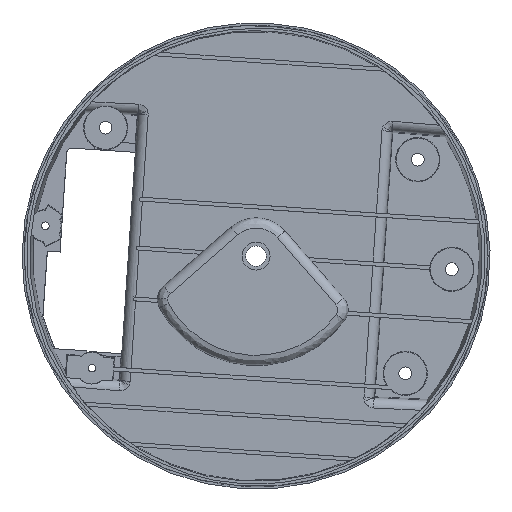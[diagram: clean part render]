
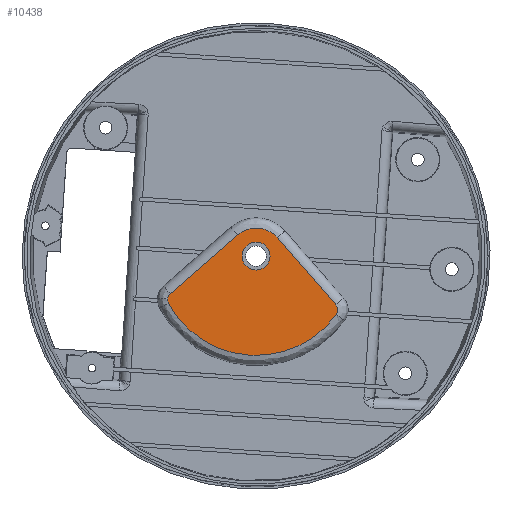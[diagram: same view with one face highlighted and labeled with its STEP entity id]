
A CAD part, front view. The second image highlights one B-rep face of the part: STEP entity #10438.
In plain terms, the highlighted planar face has unit normal (0, -1, 0).
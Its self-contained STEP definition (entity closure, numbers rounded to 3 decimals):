
#132 = ORIENTED_EDGE ( 'NONE', *, *, #8735, .T. ) ;
#175 = CARTESIAN_POINT ( 'NONE',  ( -19.419, -68.605, 186.419 ) ) ;
#1400 = EDGE_CURVE ( 'NONE', #9610, #8739, #2646, .T. ) ;
#1577 = CARTESIAN_POINT ( 'NONE',  ( -46.868, -68.605, 161.264 ) ) ;
#2056 = CIRCLE ( 'NONE', #13988, 5.5 ) ;
#2159 = CARTESIAN_POINT ( 'NONE',  ( -31.348, -68.605, 131.483 ) ) ;
#2646 =( BOUNDED_CURVE ( )  B_SPLINE_CURVE ( 3, ( #13404, #15284, #17464, #17228 ),
 .UNSPECIFIED., .F., .F. ) 
 B_SPLINE_CURVE_WITH_KNOTS ( ( 4, 4 ),
 ( 0., 0.417 ),
 .UNSPECIFIED. ) 
 CURVE ( )  GEOMETRIC_REPRESENTATION_ITEM ( )  RATIONAL_B_SPLINE_CURVE ( ( 1., 0.974, 0.974, 1. ) ) 
 REPRESENTATION_ITEM ( '' )  );
#2765 =( BOUNDED_CURVE ( )  B_SPLINE_CURVE ( 3, ( #17013, #13202, #2159, #4198 ),
 .UNSPECIFIED., .F., .F. ) 
 B_SPLINE_CURVE_WITH_KNOTS ( ( 4, 4 ),
 ( 0., 1. ),
 .UNSPECIFIED. ) 
 CURVE ( )  GEOMETRIC_REPRESENTATION_ITEM ( )  RATIONAL_B_SPLINE_CURVE ( ( 1., 0.688, 0.688, 1. ) ) 
 REPRESENTATION_ITEM ( '' )  );
#2863 = VERTEX_POINT ( 'NONE', #7914 ) ;
#3280 = VECTOR ( 'NONE', #8968, 1000. ) ;
#3350 = EDGE_CURVE ( 'NONE', #17138, #2863, #19971, .T. ) ;
#3464 = CARTESIAN_POINT ( 'NONE',  ( 20.159, -68.605, 157.846 ) ) ;
#3465 = CARTESIAN_POINT ( 'NONE',  ( 19.367, -68.605, 155.207 ) ) ;
#3534 = CARTESIAN_POINT ( 'NONE',  ( -12.181, -68.605, 178.136 ) ) ;
#3555 = FACE_OUTER_BOUND ( 'NONE', #23738, .T. ) ;
#3672 = CARTESIAN_POINT ( 'NONE',  ( -46.868, -68.605, 161.264 ) ) ;
#3875 = CARTESIAN_POINT ( 'NONE',  ( -19.419, -68.605, 186.419 ) ) ;
#4198 = CARTESIAN_POINT ( 'NONE',  ( -46.516, -68.605, 159.64 ) ) ;
#4530 = CARTESIAN_POINT ( 'NONE',  ( 16.94, -68.605, 156.971 ) ) ;
#4633 =( BOUNDED_CURVE ( )  B_SPLINE_CURVE ( 3, ( #13122, #3464, #11105, #24662 ),
 .UNSPECIFIED., .F., .F. ) 
 B_SPLINE_CURVE_WITH_KNOTS ( ( 4, 4 ),
 ( 0., 1. ),
 .UNSPECIFIED. ) 
 CURVE ( )  GEOMETRIC_REPRESENTATION_ITEM ( )  RATIONAL_B_SPLINE_CURVE ( ( 1., 0.854, 0.854, 1. ) ) 
 REPRESENTATION_ITEM ( '' )  );
#5270 = ORIENTED_EDGE ( 'NONE', *, *, #21518, .F. ) ;
#5454 = CARTESIAN_POINT ( 'NONE',  ( -45.849, -68.605, 163.322 ) ) ;
#5700 = CARTESIAN_POINT ( 'NONE',  ( -46.814, -68.605, 162.069 ) ) ;
#5986 = FACE_BOUND ( 'NONE', #12447, .T. ) ;
#6422 = PLANE ( 'NONE',  #19364 ) ;
#7091 = LINE ( 'NONE', #7966, #13420 ) ;
#7877 = ORIENTED_EDGE ( 'NONE', *, *, #21715, .T. ) ;
#7914 = CARTESIAN_POINT ( 'NONE',  ( 19.199, -68.605, 158.945 ) ) ;
#7937 = CARTESIAN_POINT ( 'NONE',  ( -46.516, -68.605, 159.64 ) ) ;
#7966 = CARTESIAN_POINT ( 'NONE',  ( -19.419, -68.605, 186.419 ) ) ;
#8735 = EDGE_CURVE ( 'NONE', #19538, #9919, #2056, .T. ) ;
#8739 = VERTEX_POINT ( 'NONE', #1577 ) ;
#8914 = CARTESIAN_POINT ( 'NONE',  ( -6.681, -68.605, 178.136 ) ) ;
#8968 = DIRECTION ( 'NONE',  ( 0.658, 0., -0.753 ) ) ;
#9610 = VERTEX_POINT ( 'NONE', #7937 ) ;
#9919 = VERTEX_POINT ( 'NONE', #24425 ) ;
#10401 = ORIENTED_EDGE ( 'NONE', *, *, #15903, .F. ) ;
#10438 = ADVANCED_FACE ( 'NONE', ( #5986, #3555 ), #6422, .T. ) ;
#10648 = ORIENTED_EDGE ( 'NONE', *, *, #20570, .F. ) ;
#10895 = VERTEX_POINT ( 'NONE', #175 ) ;
#11105 = CARTESIAN_POINT ( 'NONE',  ( 20.225, -68.605, 156.388 ) ) ;
#11550 = AXIS2_PLACEMENT_3D ( 'NONE', #18813, #20528, #16613 ) ;
#12280 = ORIENTED_EDGE ( 'NONE', *, *, #3350, .F. ) ;
#12447 = EDGE_LOOP ( 'NONE', ( #132, #7877 ) ) ;
#13122 = CARTESIAN_POINT ( 'NONE',  ( 19.199, -68.605, 158.945 ) ) ;
#13202 = CARTESIAN_POINT ( 'NONE',  ( 0.563, -68.605, 129.335 ) ) ;
#13369 = ORIENTED_EDGE ( 'NONE', *, *, #21495, .F. ) ;
#13404 = CARTESIAN_POINT ( 'NONE',  ( -46.516, -68.605, 159.64 ) ) ;
#13420 = VECTOR ( 'NONE', #13863, 1000. ) ;
#13863 = DIRECTION ( 'NONE',  ( 0.753, 0., 0.658 ) ) ;
#13988 = AXIS2_PLACEMENT_3D ( 'NONE', #3534, #15473, #24891 ) ;
#14218 = EDGE_CURVE ( 'NONE', #2863, #22625, #4633, .T. ) ;
#14443 = DIRECTION ( 'NONE',  ( 1., 0., 0. ) ) ;
#14558 = CARTESIAN_POINT ( 'NONE',  ( -45.849, -68.605, 163.322 ) ) ;
#15284 = CARTESIAN_POINT ( 'NONE',  ( -46.786, -68.605, 160.141 ) ) ;
#15473 = DIRECTION ( 'NONE',  ( 0., 1., 0. ) ) ;
#15903 = EDGE_CURVE ( 'NONE', #10895, #17138, #24861, .T. ) ;
#16613 = DIRECTION ( 'NONE',  ( 1., 0., 0. ) ) ;
#17013 = CARTESIAN_POINT ( 'NONE',  ( 19.367, -68.605, 155.207 ) ) ;
#17138 = VERTEX_POINT ( 'NONE', #21502 ) ;
#17228 = CARTESIAN_POINT ( 'NONE',  ( -46.868, -68.605, 161.264 ) ) ;
#17464 = CARTESIAN_POINT ( 'NONE',  ( -46.906, -68.605, 160.697 ) ) ;
#17510 =( BOUNDED_CURVE ( )  B_SPLINE_CURVE ( 3, ( #3672, #5700, #23080, #5454 ),
 .UNSPECIFIED., .F., .F. ) 
 B_SPLINE_CURVE_WITH_KNOTS ( ( 4, 4 ),
 ( 0.417, 1. ),
 .UNSPECIFIED. ) 
 CURVE ( )  GEOMETRIC_REPRESENTATION_ITEM ( )  RATIONAL_B_SPLINE_CURVE ( ( 1., 0.949, 0.949, 1. ) ) 
 REPRESENTATION_ITEM ( '' )  );
#17829 = CARTESIAN_POINT ( 'NONE',  ( -8.138, -68.605, 190.226 ) ) ;
#18813 = CARTESIAN_POINT ( 'NONE',  ( -12.181, -68.605, 178.136 ) ) ;
#19364 = AXIS2_PLACEMENT_3D ( 'NONE', #4530, #22416, #14443 ) ;
#19538 = VERTEX_POINT ( 'NONE', #8914 ) ;
#19971 = LINE ( 'NONE', #24532, #3280 ) ;
#20528 = DIRECTION ( 'NONE',  ( 0., 1., 0. ) ) ;
#20545 = ORIENTED_EDGE ( 'NONE', *, *, #1400, .F. ) ;
#20570 = EDGE_CURVE ( 'NONE', #8739, #21056, #17510, .T. ) ;
#21056 = VERTEX_POINT ( 'NONE', #14558 ) ;
#21495 = EDGE_CURVE ( 'NONE', #22625, #9610, #2765, .T. ) ;
#21502 = CARTESIAN_POINT ( 'NONE',  ( -3.898, -68.605, 185.375 ) ) ;
#21518 = EDGE_CURVE ( 'NONE', #21056, #10895, #7091, .T. ) ;
#21715 = EDGE_CURVE ( 'NONE', #9919, #19538, #24039, .T. ) ;
#22010 = ORIENTED_EDGE ( 'NONE', *, *, #14218, .F. ) ;
#22416 = DIRECTION ( 'NONE',  ( 0., -1., 0. ) ) ;
#22625 = VERTEX_POINT ( 'NONE', #3465 ) ;
#23080 = CARTESIAN_POINT ( 'NONE',  ( -46.456, -68.605, 162.791 ) ) ;
#23277 = CARTESIAN_POINT ( 'NONE',  ( -14.567, -68.605, 190.659 ) ) ;
#23738 = EDGE_LOOP ( 'NONE', ( #12280, #10401, #5270, #10648, #20545, #13369, #22010 ) ) ;
#23960 = CARTESIAN_POINT ( 'NONE',  ( -3.898, -68.605, 185.375 ) ) ;
#24039 = CIRCLE ( 'NONE', #11550, 5.5 ) ;
#24425 = CARTESIAN_POINT ( 'NONE',  ( -17.681, -68.605, 178.136 ) ) ;
#24532 = CARTESIAN_POINT ( 'NONE',  ( -3.898, -68.605, 185.375 ) ) ;
#24662 = CARTESIAN_POINT ( 'NONE',  ( 19.367, -68.605, 155.207 ) ) ;
#24861 =( BOUNDED_CURVE ( )  B_SPLINE_CURVE ( 3, ( #3875, #23277, #17829, #23960 ),
 .UNSPECIFIED., .F., .F. ) 
 B_SPLINE_CURVE_WITH_KNOTS ( ( 4, 4 ),
 ( 0., 1. ),
 .UNSPECIFIED. ) 
 CURVE ( )  GEOMETRIC_REPRESENTATION_ITEM ( )  RATIONAL_B_SPLINE_CURVE ( ( 1., 0.805, 0.805, 1. ) ) 
 REPRESENTATION_ITEM ( '' )  );
#24891 = DIRECTION ( 'NONE',  ( 1., 0., 0. ) ) ;
